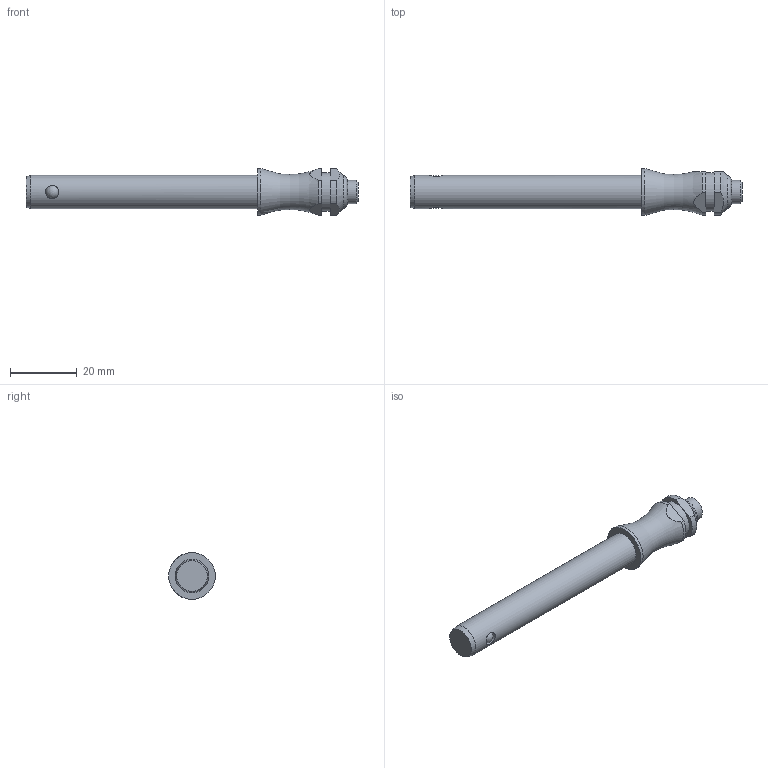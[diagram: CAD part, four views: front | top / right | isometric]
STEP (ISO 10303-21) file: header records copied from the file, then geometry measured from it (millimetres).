
FILE_DESCRIPTION( ( 'STEP AP203' ), '1' );
FILE_NAME( 'C:/Temp/Ganter_Step_05_03_2020/data/3_1/gn113_3/Stainless Steel-Ball lock pin GN 113.3-10-60 (activated).stp', '2020-03-12T08:18:35', ( 'License CC BY-ND 4.0' ), ( 'CADENAS' ), ' ', 'PARTsolutions', ' ' );
FILE_SCHEMA( ( 'CONFIG_CONTROL_DESIGN' ) );
Length unit declared in the file: millimetre
Products named in the file (1): _Stainless Steel-Ball lock pin GN 113.3-10-60 (activated)
Bounding box: 99.75 x 14 x 14 mm (x, y, z)
Volume: 8544.3 mm3; surface area: 3637.5 mm2
Topology: 1 solids, 1 shells, 30 faces, 72 edges, 45 vertices
Faces by surface type: cylinder 12, plane 11, cone 3, torus 2, sphere 2
Full cylindrical faces by diameter (mm): 4 x2, 7 x1, 10 x1, 11.6 x1, 14 x1
Entity records: 988 total; most frequent: CARTESIAN_POINT 341, DIRECTION 130, ORIENTED_EDGE 102, AXIS2_PLACEMENT_3D 56, EDGE_CURVE 51, EDGE_LOOP 46, VERTEX_POINT 39, FACE_OUTER_BOUND 38
